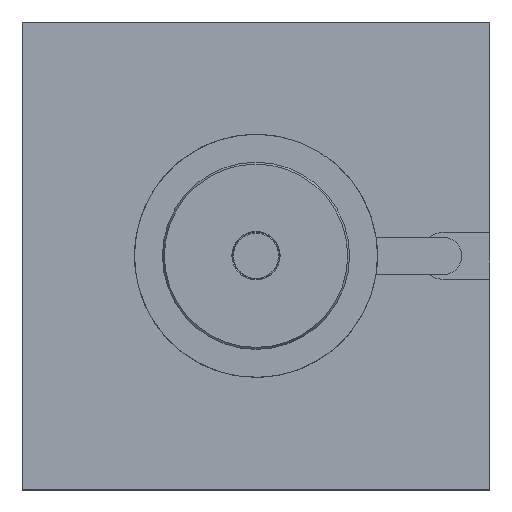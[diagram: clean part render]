
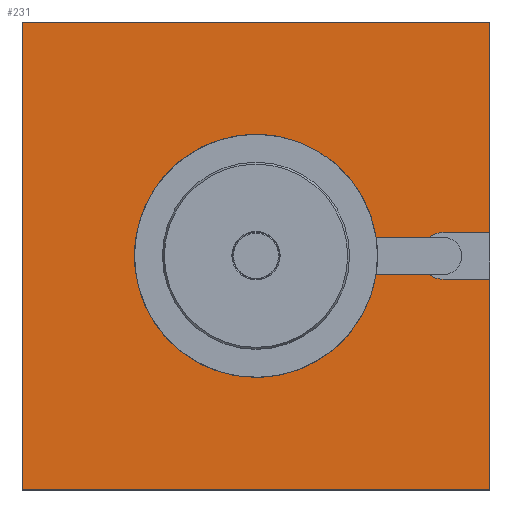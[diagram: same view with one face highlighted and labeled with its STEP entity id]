
A CAD part, top view. The second image highlights one B-rep face of the part: STEP entity #231.
In plain terms, the highlighted planar face has unit normal (0, 0, 1).
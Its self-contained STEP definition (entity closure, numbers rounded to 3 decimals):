
#231 = ADVANCED_FACE( '', ( #531 ), #532, .T. );
#531 = FACE_OUTER_BOUND( '', #966, .T. );
#532 = PLANE( '', #967 );
#966 = EDGE_LOOP( '', ( #1533, #1534, #1535, #1536, #1537, #1538, #1539, #1540, #1541, #1542, #1543, #1544 ) );
#967 = AXIS2_PLACEMENT_3D( '', #1545, #1546, #1547 );
#1533 = ORIENTED_EDGE( '', *, *, #2282, .F. );
#1534 = ORIENTED_EDGE( '', *, *, #2283, .F. );
#1535 = ORIENTED_EDGE( '', *, *, #2284, .F. );
#1536 = ORIENTED_EDGE( '', *, *, #2285, .F. );
#1537 = ORIENTED_EDGE( '', *, *, #2286, .T. );
#1538 = ORIENTED_EDGE( '', *, *, #2211, .T. );
#1539 = ORIENTED_EDGE( '', *, *, #2287, .T. );
#1540 = ORIENTED_EDGE( '', *, *, #2288, .T. );
#1541 = ORIENTED_EDGE( '', *, *, #2289, .T. );
#1542 = ORIENTED_EDGE( '', *, *, #2290, .F. );
#1543 = ORIENTED_EDGE( '', *, *, #2291, .F. );
#1544 = ORIENTED_EDGE( '', *, *, #2292, .F. );
#1545 = CARTESIAN_POINT( '', ( -125., -125., 2.5 ) );
#1546 = DIRECTION( '', ( 0., 0., 1. ) );
#1547 = DIRECTION( '', ( 0., -1., 0. ) );
#2211 = EDGE_CURVE( '', #2594, #2595, #2596, .T. );
#2282 = EDGE_CURVE( '', #2716, #2717, #2718, .T. );
#2283 = EDGE_CURVE( '', #2719, #2716, #2720, .T. );
#2284 = EDGE_CURVE( '', #2721, #2719, #2722, .T. );
#2285 = EDGE_CURVE( '', #2723, #2721, #2724, .T. );
#2286 = EDGE_CURVE( '', #2723, #2594, #2725, .T. );
#2287 = EDGE_CURVE( '', #2595, #2726, #2727, .T. );
#2288 = EDGE_CURVE( '', #2726, #2728, #2729, .T. );
#2289 = EDGE_CURVE( '', #2728, #2730, #2731, .T. );
#2290 = EDGE_CURVE( '', #2732, #2730, #2733, .T. );
#2291 = EDGE_CURVE( '', #2734, #2732, #2735, .T. );
#2292 = EDGE_CURVE( '', #2717, #2734, #2736, .T. );
#2594 = VERTEX_POINT( '', #3132 );
#2595 = VERTEX_POINT( '', #3133 );
#2596 = LINE( '', #3134, #3135 );
#2716 = VERTEX_POINT( '', #3336 );
#2717 = VERTEX_POINT( '', #3337 );
#2718 = CIRCLE( '', #3338, 65. );
#2719 = VERTEX_POINT( '', #3339 );
#2720 = LINE( '', #3340, #3341 );
#2721 = VERTEX_POINT( '', #3342 );
#2722 = CIRCLE( '', #3343, 12.5 );
#2723 = VERTEX_POINT( '', #3344 );
#2724 = LINE( '', #3345, #3346 );
#2725 = LINE( '', #3347, #3348 );
#2726 = VERTEX_POINT( '', #3349 );
#2727 = LINE( '', #3350, #3351 );
#2728 = VERTEX_POINT( '', #3352 );
#2729 = LINE( '', #3353, #3354 );
#2730 = VERTEX_POINT( '', #3355 );
#2731 = LINE( '', #3356, #3357 );
#2732 = VERTEX_POINT( '', #3358 );
#2733 = LINE( '', #3359, #3360 );
#2734 = VERTEX_POINT( '', #3361 );
#2735 = CIRCLE( '', #3362, 12.5 );
#2736 = LINE( '', #3363, #3364 );
#3132 = CARTESIAN_POINT( '', ( 125., 125., 2.5 ) );
#3133 = CARTESIAN_POINT( '', ( -125., 125., 2.5 ) );
#3134 = CARTESIAN_POINT( '', ( 125., 125., 2.5 ) );
#3135 = VECTOR( '', #3749, 1000. );
#3336 = CARTESIAN_POINT( '', ( 64.226, 10., 2.5 ) );
#3337 = CARTESIAN_POINT( '', ( 64.226, -10., 2.5 ) );
#3338 = AXIS2_PLACEMENT_3D( '', #3840, #3841, #3842 );
#3339 = CARTESIAN_POINT( '', ( 92.5, 10., 2.5 ) );
#3340 = CARTESIAN_POINT( '', ( 100., 10., 2.5 ) );
#3341 = VECTOR( '', #3843, 1000. );
#3342 = CARTESIAN_POINT( '', ( 100., 12.5, 2.5 ) );
#3343 = AXIS2_PLACEMENT_3D( '', #3844, #3845, #3846 );
#3344 = CARTESIAN_POINT( '', ( 125., 12.5, 2.5 ) );
#3345 = CARTESIAN_POINT( '', ( 148.185, 12.5, 2.5 ) );
#3346 = VECTOR( '', #3847, 1000. );
#3347 = CARTESIAN_POINT( '', ( 125., -125., 2.5 ) );
#3348 = VECTOR( '', #3848, 1000. );
#3349 = CARTESIAN_POINT( '', ( -125., -125., 2.5 ) );
#3350 = CARTESIAN_POINT( '', ( -125., 125., 2.5 ) );
#3351 = VECTOR( '', #3849, 1000. );
#3352 = CARTESIAN_POINT( '', ( 125., -125., 2.5 ) );
#3353 = CARTESIAN_POINT( '', ( -125., -125., 2.5 ) );
#3354 = VECTOR( '', #3850, 1000. );
#3355 = CARTESIAN_POINT( '', ( 125., -12.5, 2.5 ) );
#3356 = CARTESIAN_POINT( '', ( 125., -125., 2.5 ) );
#3357 = VECTOR( '', #3851, 1000. );
#3358 = CARTESIAN_POINT( '', ( 100., -12.5, 2.5 ) );
#3359 = CARTESIAN_POINT( '', ( 100., -12.5, 2.5 ) );
#3360 = VECTOR( '', #3852, 1000. );
#3361 = CARTESIAN_POINT( '', ( 92.5, -10., 2.5 ) );
#3362 = AXIS2_PLACEMENT_3D( '', #3853, #3854, #3855 );
#3363 = CARTESIAN_POINT( '', ( 0., -10., 2.5 ) );
#3364 = VECTOR( '', #3856, 1000. );
#3749 = DIRECTION( '', ( -1., 0., 0. ) );
#3840 = CARTESIAN_POINT( '', ( 0., 0., 2.5 ) );
#3841 = DIRECTION( '', ( 0., 0., 1. ) );
#3842 = DIRECTION( '', ( 1., 0., 0. ) );
#3843 = DIRECTION( '', ( -1., 0., 0. ) );
#3844 = CARTESIAN_POINT( '', ( 100., 0., 2.5 ) );
#3845 = DIRECTION( '', ( 0., 0., 1. ) );
#3846 = DIRECTION( '', ( 0., 1., 0. ) );
#3847 = DIRECTION( '', ( -1., 0., 0. ) );
#3848 = DIRECTION( '', ( 0., 1., 0. ) );
#3849 = DIRECTION( '', ( 0., -1., 0. ) );
#3850 = DIRECTION( '', ( 1., 0., 0. ) );
#3851 = DIRECTION( '', ( 0., 1., 0. ) );
#3852 = DIRECTION( '', ( 1., 0., 0. ) );
#3853 = CARTESIAN_POINT( '', ( 100., 0., 2.5 ) );
#3854 = DIRECTION( '', ( 0., 0., 1. ) );
#3855 = DIRECTION( '', ( 0., 1., 0. ) );
#3856 = DIRECTION( '', ( 1., 0., 0. ) );
